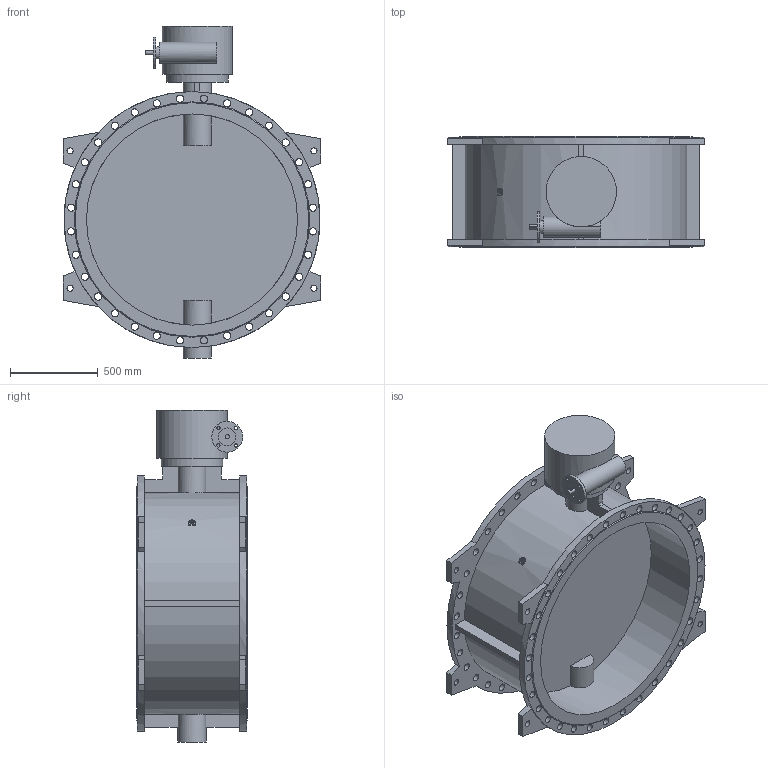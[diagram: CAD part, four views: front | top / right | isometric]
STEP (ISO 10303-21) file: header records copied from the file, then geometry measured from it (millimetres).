
FILE_DESCRIPTION(('STEP AP203'), '1');
FILE_NAME('Çàòâîð 023F.Z DN1200 PN10_ð-ð_ôë', '', ('UNSPECIFIED'), ('UNSPECIFIED'), 'ASCON STEP Converter 1.6', 'ASCON Math Kernel', '');
FILE_SCHEMA(('CONFIG_CONTROL_DESIGN'));
Length unit declared in the file: millimetre
Bounding box: 1466 x 630 x 1887 mm (x, y, z)
Volume: 261550140.1 mm3; surface area: 10499822.7 mm2
Topology: 1 solids, 1 shells, 227 faces, 580 edges, 386 vertices
Faces by surface type: cylinder 122, plane 103, cone 2
Full cylindrical faces by diameter (mm): 18 x12, 23 x8, 24 x1, 35 x8, 41 x64, 70 x1, 100 x1, 120 x1, 160 x1, 175 x1, 350 x1, 400 x1, 1200 x2, 1455 x2
Entity records: 9723 total; most frequent: CARTESIAN_POINT 2284, DIRECTION 1165, ORIENTED_EDGE 940, EDGE_LOOP 517, AXIS2_PLACEMENT_3D 487, EDGE_CURVE 470, VERTEX_POINT 385, FACE_BOUND 310
